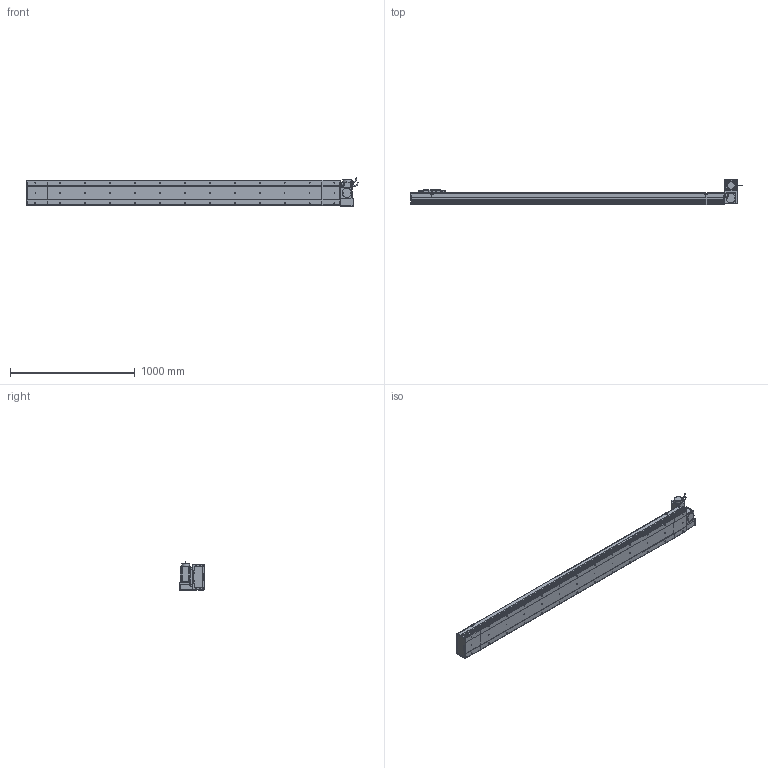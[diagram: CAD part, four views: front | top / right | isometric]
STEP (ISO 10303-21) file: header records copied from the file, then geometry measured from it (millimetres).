
FILE_DESCRIPTION (( 'STEP AP214' ), '1' );
FILE_NAME ('D20 CBH RT S2200.STEP', '2010-06-30T10:02:56', ( 'Conseil Régional Haute-Normandie' ), ( 'Conseil Régional Haute-Normandie' ), 'SwSTEP 2.0', 'SolidWorks 2010', '' );
FILE_SCHEMA (( 'AUTOMOTIVE_DESIGN' ));
Length unit declared in the file: millimetre
Products named in the file (31): Corp Tail D20 RT_Default; Head RT_Default; D20 CBH RT S2200; Plaque De Serrage D20 RT_Default; Plaque de Bout Head D20 RT_Default; Couvercle RT_Default; avant 90BLDC125A-640; Moteur motionking 90BLDC125A-640; Support moteur RT_Default; Conecteur2_Default; codeur 90BLDC125-640; corps 90BLDC125A-640; Conecteur_Default; vis M5 L15_Default; Plaque De Serrage D20_Default; Plaque de Bout Tail D20_Default; Couvercle_Default; Corp Tail D20_Default; Tail D20_Default; Glissiere_Default; Chariot D20_Default; Support Chariot D20_Default; Couvercle S2200_Default; Cache Support Moteur RT_Default; vis M5 L30_Default; Corp S2200_Default; Corp D20 S2200_Default; ecrou_Default; Rondelle Cache D20 RT_Default; vis M5 L47_Default
Assembly tree (68 placements, depth 4):
  D20 CBH RT S2200
    Tail D20_Default
      vis M5 L15_Default  x6
      Plaque De Serrage D20_Default
      Couvercle_Default
      Plaque de Bout Tail D20_Default
      Corp Tail D20_Default
    Head RT_Default
      ecrou_Default  x4
      Plaque de Bout Head D20 RT_Default
      vis M5 L15_Default  x14
      vis M5 L30_Default  x4
      Rondelle Cache D20 RT_Default  x3
      vis M5 L47_Default  x4
      Plaque De Serrage D20 RT_Default
      Moteur motionking 90BLDC125A-640
        corps 90BLDC125A-640
        codeur 90BLDC125-640
        Conecteur_Default
        Conecteur2_Default
        avant 90BLDC125A-640
      Corp Tail D20 RT_Default
      Cache Support Moteur RT_Default
      Support moteur RT_Default
      Couvercle RT_Default
    Chariot D20_Default
      vis M5 L15_Default  x8
      Chariot D20_Default
      Support Chariot D20_Default
      Glissiere_Default
    Corp D20 S2200_Default
      Corp S2200_Default
      Couvercle S2200_Default
Bounding box: 2664.45 x 206.5 x 229.7 mm (x, y, z)
Volume: 18188144.1 mm3; surface area: 3540669.9 mm2
Topology: 105 solids, 105 shells, 3826 faces, 9516 edges, 6178 vertices
Faces by surface type: plane 2131, bspline 806, cylinder 718, torus 95, cone 72, sphere 4
Entity records: 159662 total; most frequent: CARTESIAN_POINT 82352, ORIENTED_EDGE 15300, DIRECTION 11662, EDGE_CURVE 7650, VERTEX_POINT 5062, LINE 4942, VECTOR 4942, AXIS2_PLACEMENT_3D 3360
